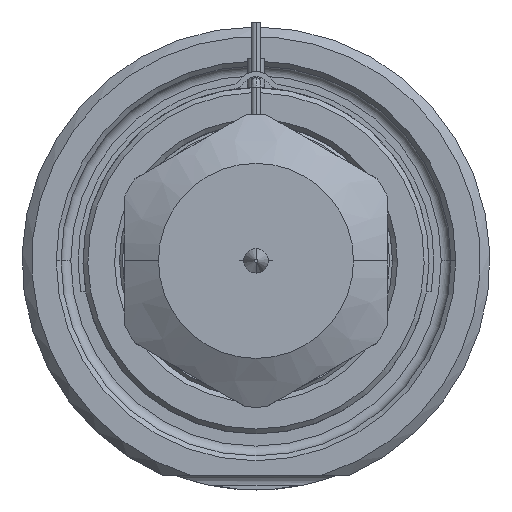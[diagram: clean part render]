
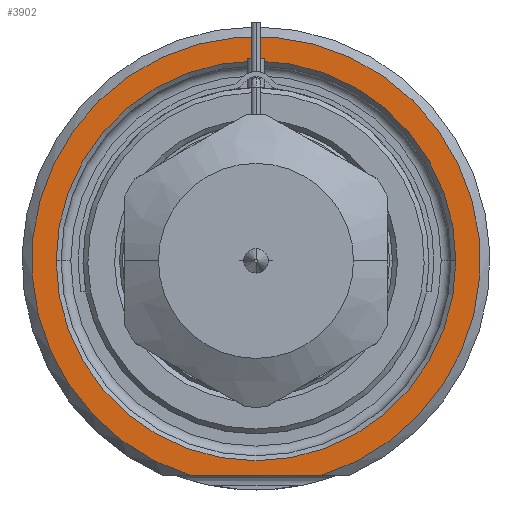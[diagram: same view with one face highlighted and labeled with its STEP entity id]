
A CAD part, front view. The second image highlights one B-rep face of the part: STEP entity #3902.
In plain terms, the highlighted planar face has unit normal (0, -1, 0).
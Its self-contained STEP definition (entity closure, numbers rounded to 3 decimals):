
#1=DIRECTION('',(1.,0.,0.));
#2=VECTOR('',#1,13.416);
#3=CARTESIAN_POINT('',(-6.708,0.,-22.));
#4=LINE('',#3,#2);
#5=CARTESIAN_POINT('',(0.,0.,0.));
#6=DIRECTION('',(0.,1.,0.));
#7=DIRECTION('',(-1.,0.,0.));
#8=AXIS2_PLACEMENT_3D('',#5,#6,#7);
#10=CARTESIAN_POINT('',(0.,0.,0.));
#11=DIRECTION('',(0.,1.,0.));
#12=DIRECTION('',(1.,0.,0.));
#13=AXIS2_PLACEMENT_3D('',#10,#11,#12);
#121=CARTESIAN_POINT('',(0.,0.,0.));
#122=DIRECTION('',(0.,-1.,0.));
#123=DIRECTION('',(0.292,0.,-0.957));
#124=AXIS2_PLACEMENT_3D('',#121,#122,#123);
#3275=CARTESIAN_POINT('',(-20.5,0.,0.));
#3276=CARTESIAN_POINT('',(20.5,0.,0.));
#3277=VERTEX_POINT('',#3275);
#3278=VERTEX_POINT('',#3276);
#3315=CARTESIAN_POINT('',(-6.708,0.,-22.));
#3316=CARTESIAN_POINT('',(6.708,0.,-22.));
#3317=VERTEX_POINT('',#3315);
#3318=VERTEX_POINT('',#3316);
#3885=CARTESIAN_POINT('',(0.,0.,0.));
#3886=DIRECTION('',(0.,-1.,0.));
#3887=DIRECTION('',(1.,0.,0.));
#3888=AXIS2_PLACEMENT_3D('',#3885,#3886,#3887);
#3889=PLANE('',#3888);
#3891=ORIENTED_EDGE('',*,*,#3890,.F.);
#3893=ORIENTED_EDGE('',*,*,#3892,.F.);
#3894=EDGE_LOOP('',(#3891,#3893));
#3895=FACE_OUTER_BOUND('',#3894,.F.);
#3897=ORIENTED_EDGE('',*,*,#3896,.F.);
#3899=ORIENTED_EDGE('',*,*,#3898,.F.);
#3900=EDGE_LOOP('',(#3897,#3899));
#3901=FACE_BOUND('',#3900,.F.);
#3902=ADVANCED_FACE('',(#3895,#3901),#3889,.T.);
#9=CIRCLE('',#8,20.5);
#14=CIRCLE('',#13,20.5);
#125=CIRCLE('',#124,23.);
#3890=EDGE_CURVE('',#3317,#3318,#4,.T.);
#3892=EDGE_CURVE('',#3318,#3317,#125,.T.);
#3896=EDGE_CURVE('',#3277,#3278,#9,.T.);
#3898=EDGE_CURVE('',#3278,#3277,#14,.T.);
